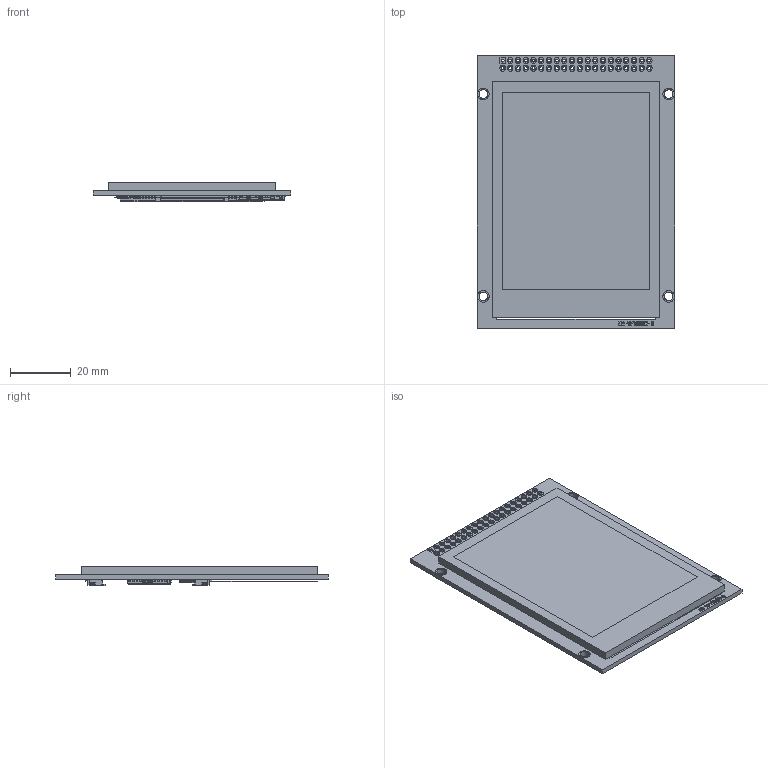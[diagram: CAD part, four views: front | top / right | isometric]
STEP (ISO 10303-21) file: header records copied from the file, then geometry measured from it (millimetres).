
FILE_DESCRIPTION(('HOOPS Exchange Step'),'2;1');
FILE_NAME('\\Server-1\e\公共文件夹\7.产品资料库\彩色-TFT\3.2寸\ER-TFTM032-3\3D\ER-TFTM032-3_3D.step','2021-01-28T09:16:07+08:00',('Administrator'),('Unknown organisation'),'HOOPS Exchange 2018.2','glovius.exe','Unknown authorisation');
FILE_SCHEMA( ('AUTOMOTIVE_DESIGN { 1 0 10303 214 1 1 1 1 }') );
Length unit declared in the file: millimetre
Products named in the file (8): 32-3-1; 连接器_50-Pin - 副本-1; SD卡座-1; 连接器_50-Pin-1; FLASH_IC-1; XPT2046-1; Default; ER-TFTM032-3
Assembly tree (8 placements, depth 3):
  ER-TFTM032-3
    Default
      32-3-1
      连接器_50-Pin - 副本-1
      SD卡座-1
      连接器_50-Pin-1
      FLASH_IC-1  x2
      XPT2046-1
Bounding box: 64.9 x 89.4 x 6.38 mm (x, y, z)
Volume: 21305.5 mm3; surface area: 28521.9 mm2
Topology: 107 solids, 107 shells, 7183 faces, 18391 edges, 11536 vertices
Faces by surface type: bspline 7183
Entity records: 715994 total; most frequent: CARTESIAN_POINT 484318, B_SPLINE_CURVE_WITH_KNOTS 48666, DEFINITIONAL_REPRESENTATION 35514, PCURVE 35514, ORIENTED_EDGE 35514, INTERSECTION_CURVE 17757, EDGE_CURVE 17757, VERTEX_POINT 11308
